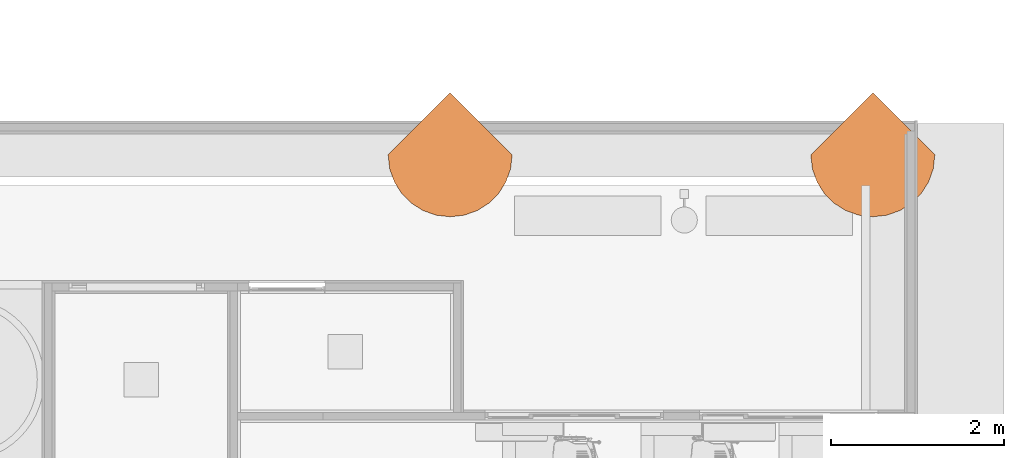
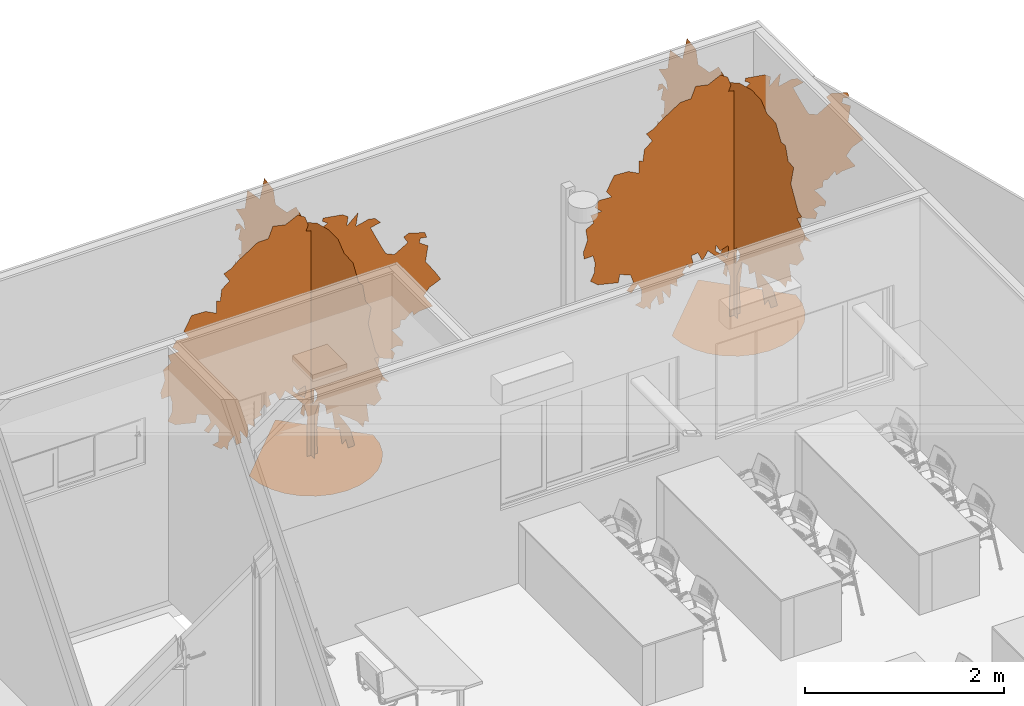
# One storey, part 155 of 155: 2 proxies.
"""IFC2X3 building model written with IfcOpenShell, lengths in metres."""

from ifc_helpers import new_model, entity, si_unit, converted_unit, derived_unit, direction, frame, origin, place, context, subcontext, project, spatial, face_set, surface_model, source, transform, mapped, type_object, type_shapes, element, save


model = new_model("IFC2X3")

# Units and contexts
model_context = context("Model", 3, precision=1e-05, world=origin(), true_north=direction((6.12303176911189e-17, 1.0)))
body_context = subcontext(model_context, "Body", "Model", "MODEL_VIEW")
ifc_project = project(units=[si_unit("LENGTHUNIT", "METRE"), si_unit("AREAUNIT", "SQUARE_METRE"), si_unit("VOLUMEUNIT", "CUBIC_METRE"), converted_unit("PLANEANGLEUNIT", "DEGREE", entity("IfcRatioMeasure", 0.0174532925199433), si_unit("PLANEANGLEUNIT", "RADIAN"), dimensions=[0, 0, 0, 0, 0, 0, 0]), si_unit("MASSUNIT", "GRAM", prefix="KILO"), derived_unit("MASSDENSITYUNIT", [(si_unit("MASSUNIT", "GRAM", prefix="KILO"), 1), (si_unit("LENGTHUNIT", "METRE"), -3)]), si_unit("TIMEUNIT", "SECOND"), si_unit("FREQUENCYUNIT", "HERTZ"), si_unit("THERMODYNAMICTEMPERATUREUNIT", "DEGREE_CELSIUS"), derived_unit("THERMALTRANSMITTANCEUNIT", [(si_unit("MASSUNIT", "GRAM", prefix="KILO"), 1), (si_unit("THERMODYNAMICTEMPERATUREUNIT", "KELVIN"), -1), (si_unit("TIMEUNIT", "SECOND"), -3)]), derived_unit("VOLUMETRICFLOWRATEUNIT", [(si_unit("LENGTHUNIT", "METRE"), 3), (si_unit("TIMEUNIT", "SECOND"), -1)]), si_unit("ELECTRICCURRENTUNIT", "AMPERE"), si_unit("ELECTRICVOLTAGEUNIT", "VOLT"), si_unit("POWERUNIT", "WATT"), si_unit("FORCEUNIT", "NEWTON", prefix="KILO"), si_unit("ILLUMINANCEUNIT", "LUX"), si_unit("LUMINOUSFLUXUNIT", "LUMEN"), si_unit("LUMINOUSINTENSITYUNIT", "CANDELA"), derived_unit("USERDEFINED", [(si_unit("MASSUNIT", "GRAM", prefix="KILO"), -1), (si_unit("LENGTHUNIT", "METRE"), -2), (si_unit("TIMEUNIT", "SECOND"), 3), (si_unit("LUMINOUSFLUXUNIT", "LUMEN"), 1)]), derived_unit("LINEARVELOCITYUNIT", [(si_unit("LENGTHUNIT", "METRE"), 1), (si_unit("TIMEUNIT", "SECOND"), -1)]), si_unit("PRESSUREUNIT", "PASCAL"), derived_unit("USERDEFINED", [(si_unit("LENGTHUNIT", "METRE"), -2), (si_unit("MASSUNIT", "GRAM", prefix="KILO"), 1), (si_unit("TIMEUNIT", "SECOND"), -2)])], contexts=[model_context])

# Site, building, storey
site_placement = place(None, frame((26.9889013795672, -17.5624287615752, 0.0)))
site = spatial("IfcSite", under=ifc_project, at=site_placement, Name="Default", CompositionType="ELEMENT")
building_placement = place(site_placement, origin())
building = spatial("IfcBuilding", under=site, at=building_placement, Name="C. C. L. Monsenhor Antônio Sampaio", CompositionType="ELEMENT")
storey_placement = place(building_placement, frame((0.0, 0.0, 1.19999999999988)))
storey = spatial("IfcBuildingStorey", under=building, at=storey_placement, Name="Nível 1.2", CompositionType="ELEMENT", Elevation=1.19999999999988)

# Proxies
building_element_proxy_type = type_object("IfcBuildingElementProxyType", Name="Árvore menor - 3 metros", PredefinedType="NOTDEFINED")
shared_shape = source(origin(), body_context, "Body", "SurfaceModel", [
    surface_model("IfcFaceBasedSurfaceModel", [(0.719553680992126, 6.28882015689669e-08, 5.41456997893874e-08), (0.000196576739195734, 0.719357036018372, 5.41456997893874e-08), (-0.719160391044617, 0.0, 5.41456997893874e-08), (0.700535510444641, -0.164828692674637, 5.41456997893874e-08), (-0.700142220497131, -0.164828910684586, 5.41456997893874e-08), (0.646374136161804, -0.316197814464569, 5.41456997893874e-08), (-0.645980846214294, -0.316197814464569, 5.41456997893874e-08), (-0.561012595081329, -0.44977058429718, 5.41456997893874e-08), (0.561405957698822, -0.44977058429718, 5.41456997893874e-08), (0.449967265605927, -0.561209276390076, 5.41456997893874e-08), (-0.449573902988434, -0.561209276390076, 5.41456997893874e-08), (-0.316001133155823, -0.646177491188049, 5.41456997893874e-08), (-0.164632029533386, -0.700338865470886, 5.41456997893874e-08), (0.000196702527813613, -0.719357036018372, 5.41456997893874e-08), (0.165025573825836, -0.700338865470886, 5.41456997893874e-08), (0.316394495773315, -0.646177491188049, 5.41456997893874e-08), (0.000196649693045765, -0.0301486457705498, 0.643486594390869), (0.000196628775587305, -0.0689838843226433, 4.2996833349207e-08), (0.000196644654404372, -0.0651004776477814, 0.526979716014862), (0.000196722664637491, 1.46502089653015, 0.849313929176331), (0.000196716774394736, 1.41065270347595, 0.732807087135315), (0.000196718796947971, 1.40676863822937, 0.80659575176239), (0.000196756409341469, 1.50774139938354, 1.91729387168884), (0.00019675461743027, 1.53492549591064, 1.81632111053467), (0.000196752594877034, 1.41453458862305, 1.92894374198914), (0.00019675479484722, 1.43783680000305, 1.96778017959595), (0.000196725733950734, 1.3057958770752, 1.19106857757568), (0.000196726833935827, 1.45725509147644, 1.00077307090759), (0.000196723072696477, 1.36016639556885, 1.02019121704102), (0.000196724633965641, 1.44172086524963, 0.950286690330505), (0.000196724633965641, 1.5193914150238, 0.83377984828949), (0.000196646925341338, -0.162189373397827, 0.748341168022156), (0.000196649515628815, -0.111703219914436, 0.759993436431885), (0.000196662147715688, 0.230050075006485, 0.670670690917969), (0.000196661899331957, 0.28442053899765, 0.581350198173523), (0.000196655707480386, 0.109660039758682, 0.635718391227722), (0.000196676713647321, 0.587336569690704, 0.624068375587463), (0.000196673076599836, 0.544618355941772, 0.56581382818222), (0.000196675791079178, 0.517434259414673, 0.697854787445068), (0.000196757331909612, 1.32909590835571, 2.21632576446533), (0.000196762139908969, 1.51162328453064, 2.1037029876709), (0.000196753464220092, 1.35628233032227, 2.04545072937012), (0.000196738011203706, 1.5465755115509, 1.24155488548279), (0.000196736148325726, 1.56210959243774, 1.15611627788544), (0.000196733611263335, 1.47667323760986, 1.19883445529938), (0.000196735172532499, 1.47278917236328, 1.25708911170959), (0.000196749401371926, 1.32521402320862, 1.9561279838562), (0.000196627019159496, -0.566079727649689, 0.68620477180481), (0.000196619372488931, -0.62045020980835, 0.511445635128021), (0.00019661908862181, -0.694236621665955, 0.612418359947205), (0.000196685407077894, 0.820350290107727, 0.56581382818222), (0.000196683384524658, 0.83976843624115, 0.468725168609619), (0.000196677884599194, 0.665009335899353, 0.546397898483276), (0.000196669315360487, 0.354325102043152, 0.725041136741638), (0.000196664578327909, 0.299954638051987, 0.647370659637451), (0.000196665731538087, 0.261118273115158, 0.744459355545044), (0.000196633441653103, -1.26900262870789, 1.9561279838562), (0.000196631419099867, -1.36609132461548, 2.03379838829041), (0.000196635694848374, -1.28842092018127, 2.06098481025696), (0.000196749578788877, 1.46113683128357, 1.75806652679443), (0.00019674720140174, 1.39511629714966, 1.77748467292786), (0.000196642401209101, -0.286463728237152, 0.783293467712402), (0.000196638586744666, -0.309763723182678, 0.690088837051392), (0.000196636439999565, -0.422388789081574, 0.787177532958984), (0.000196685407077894, 0.781516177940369, 0.624068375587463), (0.00019665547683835, 0.171796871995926, 0.534745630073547), (0.000196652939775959, 0.218399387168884, 0.379404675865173), (0.000196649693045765, 0.140728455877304, 0.387170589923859), (0.000196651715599, 0.129077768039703, 0.472609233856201), (0.000196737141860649, 1.41841865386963, 1.40466411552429), (0.000196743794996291, 1.53104143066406, 1.45903230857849), (0.000196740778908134, 1.53880956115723, 1.34640953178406), (0.000196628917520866, -0.476756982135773, 0.616300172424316), (0.000196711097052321, 1.14657085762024, 0.938636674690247), (0.000196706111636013, 1.13103445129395, 0.794945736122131), (0.000196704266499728, 1.0688980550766, 0.826013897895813), (0.000196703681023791, 0.998993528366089, 0.911452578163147), (0.000196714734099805, 1.29802774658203, 0.83377984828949), (0.000196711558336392, 1.25530956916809, 0.791061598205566), (0.000196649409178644, -1.14472990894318, 2.30565984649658), (0.000196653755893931, -1.20298223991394, 2.53865986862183), (0.00019665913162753, -1.09035946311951, 2.55031904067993), (0.000196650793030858, 0.0824750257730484, 0.511445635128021), (0.000196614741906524, -0.744723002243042, 0.542513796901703), (0.000196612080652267, -0.876763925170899, 0.651252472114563), (0.000196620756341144, -0.783559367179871, 0.802711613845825), (0.000196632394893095, -0.546661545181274, 0.837663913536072), (0.00019663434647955, 0.0552902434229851, 4.67004684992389e-08), (0.000196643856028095, 0.0358722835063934, 0.3483364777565), (0.000196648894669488, 0.0397559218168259, 0.511445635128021), (0.000196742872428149, 1.39900050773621, 1.62602560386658), (0.000196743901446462, 1.46113683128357, 1.56777320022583), (0.000196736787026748, 1.36404813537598, 1.47456638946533), (0.000196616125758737, -1.27288683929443, 1.38136175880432), (0.000196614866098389, -1.41269589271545, 1.54835505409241), (0.000196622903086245, -1.30007093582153, 1.64932781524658), (0.000196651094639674, -0.123353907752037, 0.829895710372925), (0.00019674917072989, 0.758213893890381, 2.79886462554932), (0.000196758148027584, 0.940741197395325, 2.82604639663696), (0.000196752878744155, 1.03006394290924, 2.51536448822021), (0.000196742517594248, 0.715495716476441, 2.63963713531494), (0.000196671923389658, 0.466947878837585, 0.643486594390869), (0.000196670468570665, 0.408693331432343, 0.682320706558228), (0.000196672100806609, 0.416461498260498, 0.725041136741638), (0.000196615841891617, -1.07482538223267, 1.07456173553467), (0.00019661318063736, -1.16026398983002, 1.11339584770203), (0.00019662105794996, -1.11366174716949, 1.3075754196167), (0.000196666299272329, -1.03598894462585, 2.70954624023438), (0.000196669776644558, -0.950552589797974, 2.6978873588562), (0.000196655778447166, -0.0029635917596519, 0.80659575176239), (0.000196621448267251, -1.38939368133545, 1.73476649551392), (0.00019662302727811, -1.43211185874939, 1.85127333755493), (0.000196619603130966, -0.923366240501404, 0.973588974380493), (0.000196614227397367, -1.043757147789, 0.973588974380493), (0.000196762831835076, 1.27860945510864, 2.47652354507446), (0.000196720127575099, 0.121310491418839, 2.77943267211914), (0.000196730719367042, 0.30383873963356, 2.86100094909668), (0.00019673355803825, 0.48636380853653, 2.68236446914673), (0.000196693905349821, 0.855302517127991, 0.798827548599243), (0.000196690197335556, 0.863070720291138, 0.662904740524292), (0.000196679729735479, -0.841811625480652, 2.86877373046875), (0.000196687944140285, -0.66316838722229, 2.87652354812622), (0.000196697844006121, 0.894138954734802, 0.872616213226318), (0.000196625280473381, -0.760257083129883, 0.919218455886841), (0.000196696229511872, -0.542777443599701, 2.97361471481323), (0.000196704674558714, -0.356366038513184, 2.97750110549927), (0.000196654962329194, -0.0573334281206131, 0.86096619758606), (0.000196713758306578, -0.11170299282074, 2.91536449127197), (-0.0506033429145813, 7.76747955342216e-08, 0.0), (0.0350266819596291, 2.71163724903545e-08, 0.785434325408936), (0.0291209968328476, 3.77584202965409e-08, 0.611220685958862), (-0.0476503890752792, 6.66338866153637e-08, 0.18307096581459), (-0.0446976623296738, 4.78491046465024e-08, 0.496063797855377), (0.0409321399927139, 4.0234105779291e-08, 0.561022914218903), (0.7643582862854, -3.35572835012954e-09, 0.761811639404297), (0.906090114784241, 1.18483896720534e-09, 0.581693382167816), (0.785026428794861, 2.42872803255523e-09, 0.649607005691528), (0.743687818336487, 1.46195725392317e-08, 0.475393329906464), (0.717112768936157, 9.26927548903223e-09, 0.584645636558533), (-0.0830835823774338, 4.03750127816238e-08, 0.649607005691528), (-0.0801308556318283, 3.53179669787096e-08, 0.732284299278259), (0.0527432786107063, 2.40540978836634e-08, 0.823818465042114), (-0.0594615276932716, 3.07186469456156e-08, 0.79429119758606), (0.350971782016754, 1.57699369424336e-08, 0.744095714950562), (0.312585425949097, 2.2199781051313e-08, 0.664370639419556), (0.283058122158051, 1.57465730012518e-08, 0.79429119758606), (0.412980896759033, -1.01339124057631e-07, 2.66338713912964), (0.542901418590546, -1.14058221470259e-07, 2.78150085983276), (0.519278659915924, -1.0369776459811e-07, 2.62500081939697), (-0.201194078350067, 3.72659193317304e-08, 0.788386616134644), (-0.213005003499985, 3.33822835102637e-08, 0.862204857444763), (-0.301587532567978, 3.51422847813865e-08, 0.897638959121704), (-0.957099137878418, 8.82593452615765e-08, 0.487204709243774), (-0.965958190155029, 9.35745769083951e-08, 0.404527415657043), (-1.01024916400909, 9.1990714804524e-08, 0.463581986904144), (-0.661823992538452, 6.44407038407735e-08, 0.670275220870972), (-0.652964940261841, 6.95093406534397e-08, 0.578741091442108), (-0.732689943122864, 6.92982032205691e-08, 0.640747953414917), (-0.729737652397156, 7.63850228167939e-08, 0.519684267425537), (-0.744501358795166, 8.00225294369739e-08, 0.469488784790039), (-0.827178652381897, 7.62443453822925e-08, 0.593504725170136), (-1.04273097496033, 9.46423012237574e-08, 0.442913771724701), (-1.1460764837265, 9.40559416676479e-08, 0.52854335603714), (-1.07521053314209, 8.99023059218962e-08, 0.546259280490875), (0.740735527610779, -1.14433898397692e-07, 2.64272822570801), (0.805696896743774, -1.13049578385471e-07, 2.5718418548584), (0.687585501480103, -1.06478671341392e-07, 2.54822817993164), (1.30471294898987, -7.07988881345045e-08, 1.49704815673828), (1.41101067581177, -6.57654748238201e-08, 1.33464586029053), (1.25156299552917, -5.82677461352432e-08, 1.32578680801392), (1.3194765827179, -1.17379808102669e-07, 2.2677166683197), (1.34014479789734, -1.14411175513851e-07, 2.20275755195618), (1.2663266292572, -1.12064585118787e-07, 2.2175211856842), (1.13345152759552, -1.12768214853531e-07, 2.32677352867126), (-1.09883096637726, -3.22418300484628e-09, 2.12598476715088), (-1.09883096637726, -1.23760949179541e-08, 2.27952350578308), (-1.05454006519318, -1.29041409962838e-08, 2.25590532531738), (-0.325210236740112, 3.89909223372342e-08, 0.850393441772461), (-0.366548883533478, 4.37897866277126e-08, 0.800197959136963), (-0.416744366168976, 3.92961479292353e-08, 0.912402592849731), (-0.596862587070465, 5.79052455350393e-08, 0.732284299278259), (-0.56733531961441, 5.87263836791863e-08, 0.696850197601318), (0.575380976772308, 1.42325958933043e-08, 0.605316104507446), (0.52518549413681, 2.20587116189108e-08, 0.510827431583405), (0.436601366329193, 1.92428694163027e-08, 0.623032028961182), (-1.62442206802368, 4.50938791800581e-08, 1.70078688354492), (-1.65985624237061, 4.04827407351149e-08, 1.80413464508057), (-1.53288797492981, 3.45806925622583e-08, 1.81003922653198), (0.666917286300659, -1.12263217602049e-07, 2.66043266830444), (-0.204146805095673, 2.91231916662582e-08, 0.927166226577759), (-0.0653669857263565, 2.60488712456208e-08, 0.876968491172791), (-0.945287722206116, -3.03516004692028e-08, 2.46850077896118), (-1.01320138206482, -3.38947828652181e-08, 2.57775079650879), (-0.930524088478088, -3.94447866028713e-08, 2.61022817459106), (0.073412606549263, 7.22538890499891e-08, 9.54661638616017e-08), (0.0645544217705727, 5.50413825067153e-08, 0.295275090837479), (0.102940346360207, 3.3299784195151e-08, 0.631888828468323), (0.0704594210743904, 3.20795553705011e-08, 0.676182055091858), (0.167901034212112, 2.41243261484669e-08, 0.738188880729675), (0.0940817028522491, 2.43590982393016e-08, 0.788386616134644), (1.0714447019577, -3.20906915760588e-08, 1.01870031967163), (1.05668106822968, -2.82775092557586e-08, 0.965552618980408), (0.997626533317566, -2.72800088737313e-08, 0.992125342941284), (0.935617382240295, -3.74175120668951e-08, 1.20767766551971), (1.42577445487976, -9.19304814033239e-08, 1.76279603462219), (1.50254709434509, -8.75425305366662e-08, 1.63287547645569), (1.36967206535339, -7.83902501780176e-08, 1.57677090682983), (1.12164243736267, -1.05564125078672e-07, 2.21456656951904), (1.0714447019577, -1.08473901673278e-07, 2.30020523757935), (1.25451528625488, -1.08380263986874e-07, 2.16437123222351), (-1.18741509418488, 8.63588961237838e-08, 0.687993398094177), (-1.24351741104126, 8.59952520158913e-08, 0.735236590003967), (-1.16379240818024, 7.79343457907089e-08, 0.812007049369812), (-1.11064238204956, 7.80752571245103e-08, 0.770668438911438), (1.1895538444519, -5.39731990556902e-08, 1.29921183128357), (1.17183791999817, -5.65427474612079e-08, 1.35531640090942), (-0.466942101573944, 4.88820602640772e-08, 0.788386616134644), (-0.514185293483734, 5.27072883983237e-08, 0.758859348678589), (-0.540760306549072, 5.07009261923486e-08, 0.812007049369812), (-0.493517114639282, 4.33559250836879e-08, 0.900591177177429), (0.666917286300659, 7.76747955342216e-09, 0.646654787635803), (-1.32324248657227, 7.59282088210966e-08, 0.96259807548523), (-1.33800612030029, 8.2205485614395e-08, 0.868111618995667), (-1.57422658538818, 8.91870765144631e-08, 0.924213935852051), (0.923806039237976, -2.29972802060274e-08, 0.974409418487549), (0.971051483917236, -2.13664606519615e-08, 0.912402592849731), (0.947428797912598, -1.6637937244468e-08, 0.850393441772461), (0.790933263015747, -1.36692321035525e-08, 0.915354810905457), (-0.809462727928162, 8.47979821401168e-08, 0.437006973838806), (-0.868517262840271, 8.77313912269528e-08, 0.431102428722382), (-0.892140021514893, 8.15479773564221e-08, 0.55216607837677), (0.1295151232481, -9.84525294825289e-08, 2.82284194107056), (0.138373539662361, -1.00951622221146e-07, 2.85827378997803), (0.359830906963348, -1.08519806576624e-07, 2.82284194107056), (0.191523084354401, -9.85229851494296e-08, 2.77854638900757), (-1.63328112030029, 6.94168421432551e-08, 1.29921183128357), (-1.73367441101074, 7.39811617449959e-08, 1.29625954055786), (-1.74548575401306, 6.95693401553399e-08, 1.37893676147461), (1.03896514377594, -4.68627426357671e-08, 1.29035495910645), (1.03010609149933, -4.17236501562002e-08, 1.21062995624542), (-0.49646940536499, -7.14418426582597e-08, 2.82875088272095), (-0.443319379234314, -8.16850250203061e-08, 2.96161457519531), (-0.298635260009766, -8.60734350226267e-08, 2.92913719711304), (-1.60965843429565, 3.353660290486e-08, 1.88385972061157), (-1.56241524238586, 2.72475098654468e-08, 1.954725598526), (-1.41772887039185, 2.14511668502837e-08, 1.94586654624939), (-0.159855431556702, 3.19391010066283e-08, 0.847441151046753), (-1.66280838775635, 8.86593477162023e-08, 0.99803217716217), (-1.61556519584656, 8.11382117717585e-08, 1.08956627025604), (-1.69528794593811, 5.92793389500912e-08, 1.51476408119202), (-1.0693036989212, 8.10202572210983e-08, 0.690945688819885), (-1.60965843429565, 7.38402504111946e-08, 1.20767766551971), (-1.71595848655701, 5.22629706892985e-08, 1.64763911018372), (-1.47678558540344, 1.87525969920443e-08, 2.03444834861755), (-1.38524931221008, 4.89556973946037e-09, 2.19980293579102), (-1.22284687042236, -1.67524823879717e-09, 2.19094620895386), (1.35490843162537, -1.08544582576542e-07, 2.09350520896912), (1.32538116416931, -9.61661638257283e-08, 1.90748022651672), (0.427744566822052, -1.0867253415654e-07, 2.77559191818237), (-0.153949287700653, -9.66216264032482e-08, 3.00000089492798), (-0.0712722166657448, -9.6891624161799e-08, 2.94388745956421), (-0.0328865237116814, -9.20577572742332e-08, 2.83463715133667), (-0.059461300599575, -8.68479795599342e-08, 2.76672821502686), (0.102940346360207, -9.16588896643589e-08, 2.72834189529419), (1.08620833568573, -4.8223880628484e-08, 1.27854361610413), (0.965144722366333, -9.32675277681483e-08, 2.12303247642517), (0.867703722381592, -9.16482082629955e-08, 2.16732337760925), (0.832271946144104, -9.41473010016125e-08, 2.23523711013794), (0.785026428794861, -9.80661711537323e-08, 2.33563708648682), (-0.620485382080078, -6.58450222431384e-08, 2.82579641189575), (-0.747453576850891, -5.53670656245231e-08, 2.7431145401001), (-0.841942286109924, -4.77168345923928e-08, 2.6840463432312), (-1.03682414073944, -2.19504617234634e-08, 2.39468261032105), (-1.19627189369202, 7.33702514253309e-08, 0.912402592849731)], [face_set([[[0, 1, 2]], [[3, 0, 2]], [[3, 2, 4]], [[5, 3, 4]], [[5, 4, 6]], [[5, 6, 7]], [[8, 5, 7]], [[9, 8, 7]], [[9, 7, 10]], [[9, 10, 11]], [[9, 11, 12]], [[9, 12, 13]], [[9, 13, 14]], [[9, 14, 15]], [[16, 17, 18]], [[19, 20, 21]], [[22, 23, 24]], [[25, 22, 24]], [[26, 27, 28]], [[29, 30, 19]], [[16, 18, 31]], [[32, 16, 31]], [[33, 34, 35]], [[36, 37, 38]], [[39, 40, 41]], [[42, 43, 44]], [[45, 42, 44]], [[46, 25, 24]], [[47, 48, 49]], [[50, 51, 52]], [[53, 54, 55]], [[56, 57, 58]], [[24, 59, 60]], [[61, 62, 63]], [[64, 50, 52]], [[65, 66, 67]], [[65, 67, 68]], [[69, 70, 71]], [[63, 72, 47]], [[73, 74, 75]], [[73, 75, 76]], [[69, 71, 45]], [[77, 78, 73]], [[79, 80, 81]], [[65, 68, 82]], [[35, 65, 82]], [[49, 83, 84]], [[49, 84, 85]], [[49, 85, 86]], [[47, 49, 86]], [[63, 47, 86]], [[87, 17, 16]], [[88, 87, 16]], [[89, 88, 16]], [[90, 91, 92]], [[45, 44, 26]], [[69, 45, 26]], [[93, 94, 95]], [[96, 32, 31]], [[97, 98, 99]], [[100, 97, 99]], [[38, 101, 102]], [[38, 102, 103]], [[46, 24, 60]], [[96, 31, 61]], [[104, 105, 106]], [[81, 107, 108]], [[64, 52, 36]], [[35, 82, 89]], [[35, 89, 16]], [[35, 16, 109]], [[110, 111, 56]], [[95, 110, 56]], [[112, 113, 104]], [[33, 35, 109]], [[55, 33, 109]], [[99, 114, 39]], [[115, 116, 117]], [[118, 119, 64]], [[118, 64, 36]], [[118, 36, 38]], [[29, 19, 21]], [[29, 21, 77]], [[28, 29, 77]], [[28, 77, 73]], [[26, 28, 73]], [[92, 69, 26]], [[106, 93, 95]], [[108, 120, 121]], [[26, 73, 76]], [[112, 104, 106]], [[122, 118, 38]], [[123, 112, 106]], [[56, 58, 79]], [[122, 38, 103]], [[121, 124, 125]], [[92, 26, 76]], [[92, 76, 122]], [[99, 39, 41]], [[99, 41, 46]], [[100, 99, 46]], [[117, 100, 46]], [[92, 122, 103]], [[90, 92, 103]], [[60, 90, 103]], [[46, 60, 103]], [[117, 46, 103]], [[117, 103, 53]], [[117, 53, 55]], [[117, 55, 109]], [[117, 109, 126]], [[115, 117, 126]], [[127, 115, 126]], [[125, 127, 126]], [[121, 125, 126]], [[108, 121, 126]], [[81, 108, 126]], [[79, 81, 126]], [[56, 79, 126]], [[95, 56, 126]], [[106, 95, 126]], [[123, 106, 126]], [[86, 123, 126]], [[86, 126, 96]], [[86, 96, 61]], [[86, 61, 63]], [[128, 129, 130]], [[129, 128, 131]], [[129, 131, 132]], [[128, 130, 133]], [[134, 135, 136]], [[136, 137, 138]], [[129, 132, 139]], [[140, 141, 129]], [[140, 129, 139]], [[141, 140, 142]], [[143, 144, 145]], [[146, 147, 148]], [[140, 139, 149]], [[150, 140, 149]], [[150, 149, 151]], [[152, 153, 154]], [[155, 156, 157]], [[158, 159, 160]], [[157, 158, 160]], [[161, 162, 163]], [[164, 165, 166]], [[167, 168, 169]], [[170, 171, 172]], [[173, 170, 172]], [[174, 175, 176]], [[177, 178, 179]], [[180, 181, 155]], [[182, 183, 184]], [[185, 186, 187]], [[188, 164, 166]], [[154, 161, 163]], [[189, 150, 151]], [[141, 142, 190]], [[191, 192, 193]], [[194, 128, 133]], [[195, 194, 133]], [[196, 195, 133]], [[196, 133, 197]], [[198, 196, 197]], [[198, 197, 199]], [[200, 201, 202]], [[203, 200, 202]], [[204, 205, 206]], [[151, 177, 179]], [[207, 208, 173]], [[207, 173, 172]], [[207, 172, 209]], [[210, 211, 212]], [[213, 210, 212]], [[169, 214, 215]], [[216, 217, 218]], [[219, 216, 218]], [[136, 138, 220]], [[134, 136, 220]], [[221, 222, 223]], [[167, 169, 215]], [[148, 188, 166]], [[203, 202, 224]], [[225, 226, 227]], [[224, 225, 227]], [[160, 228, 229]], [[160, 229, 230]], [[231, 232, 233]], [[234, 231, 233]], [[235, 236, 237]], [[238, 239, 203]], [[240, 241, 242]], [[187, 243, 244]], [[187, 244, 245]], [[190, 246, 189]], [[223, 247, 248]], [[221, 223, 248]], [[152, 154, 163]], [[235, 237, 249]], [[230, 152, 163]], [[230, 163, 250]], [[160, 230, 250]], [[221, 248, 251]], [[249, 252, 185]], [[253, 254, 255]], [[245, 253, 255]], [[245, 255, 174]], [[209, 256, 257]], [[203, 224, 227]], [[233, 258, 146]], [[234, 233, 146]], [[242, 259, 260]], [[242, 260, 261]], [[242, 261, 262]], [[240, 242, 262]], [[145, 198, 199]], [[263, 234, 146]], [[215, 264, 238]], [[207, 209, 257]], [[265, 207, 257]], [[257, 204, 206]], [[265, 257, 206]], [[265, 206, 167]], [[265, 167, 215]], [[265, 215, 238]], [[266, 265, 238]], [[266, 238, 203]], [[157, 160, 250]], [[157, 250, 213]], [[182, 184, 143]], [[220, 182, 143]], [[134, 220, 143]], [[227, 134, 143]], [[227, 143, 145]], [[203, 227, 145]], [[266, 203, 145]], [[266, 145, 199]], [[266, 199, 141]], [[266, 141, 190]], [[266, 190, 189]], [[267, 266, 189]], [[268, 267, 189]], [[166, 268, 189]], [[148, 166, 189]], [[146, 148, 189]], [[263, 146, 189]], [[262, 263, 189]], [[240, 262, 189]], [[269, 240, 189]], [[270, 269, 189]], [[271, 270, 189]], [[193, 271, 189]], [[191, 193, 189]], [[272, 191, 189]], [[176, 272, 189]], [[174, 176, 189]], [[174, 189, 151]], [[174, 151, 179]], [[174, 179, 219]], [[245, 174, 219]], [[187, 245, 219]], [[185, 187, 219]], [[249, 185, 219]], [[235, 249, 219]], [[251, 235, 219]], [[221, 251, 219]], [[273, 221, 219]], [[273, 219, 218]], [[212, 273, 218]], [[213, 212, 218]], [[157, 213, 218]], [[157, 218, 180]], [[157, 180, 155]]])]),
])
type_shapes(building_element_proxy_type, [shared_shape])
for number, where in (
    (1, (11.2122995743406, -7.1962218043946, -0.1)),
    (2, (6.31229957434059, -7.19622180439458, -0.1)),
):
    element("IfcBuildingElementProxy", number, at=place(storey_placement, frame(where)), inside=storey, type_object=building_element_proxy_type, Name="RPC Árvore - Tropical:Árvore menor - 3 metros", ObjectType="Árvore menor - 3 metros", context=body_context, shape_type="MappedRepresentation", body=[
        mapped(shared_shape, transform((0.0, 0.0, 0.0), scale=1.0)),
    ])

save(model, "model.ifc")
